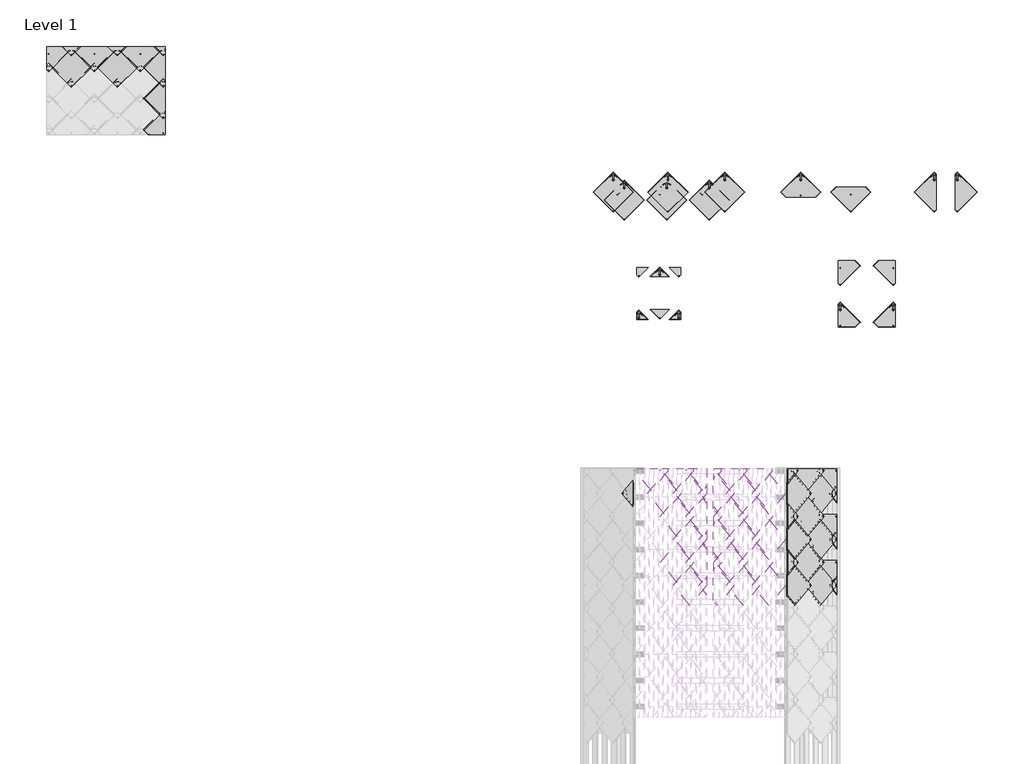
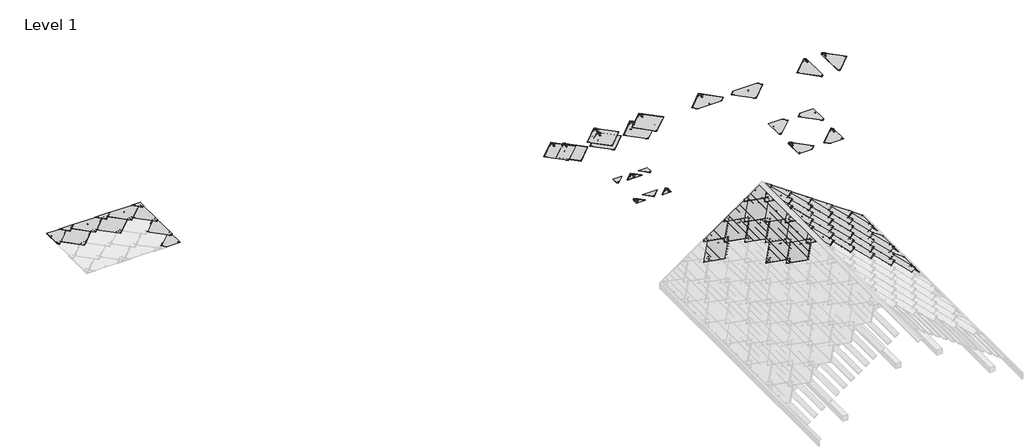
# One storey, part 6 of 6: 82 proxies.
"""IFC4 building model written with IfcOpenShell, lengths in millimetres."""

from ifc_helpers import new_model, si_unit, origin, place, context, project, spatial, transform, mapped, element, save
from components import generic_models_167ef6fe, roofing_panels_sunstyle_tile_non_pv_shingle_non_pv_shingle_39b62107, corner_bottom_big_left_black_bb089a68, corner_bottom_big_right_black_f07d85a3, corner_bottom_small_left_black_13c94d74, corner_bottom_small_right_black_06786041, corner_top_big_left_black_c61de7e8, corner_top_big_right_black_07bce5d7, corner_top_small_left_black_a376e61a, corner_top_small_right_black_ae19c19d, roofing_panels_sunstyle_tile_shingle_bottom_shingle_bottom_b4a41e6e, roofing_panels_sunstyle_tile_shingle_bottom_small_shingle_441e44e2, roofing_panels_sunstyle_tile_shingle_left_shingle_left_black_68cb1fd1, roofing_panels_sunstyle_tile_shingle_right_shingle_right_283bab78, roofing_panels_sunstyle_tile_shingle_top_shingle_top_black_3c2a6519, roofing_panels_sunstyle_tile_shingle_top_small_shingle_top_f7f51557

model = new_model("IFC4")

# Units and contexts
model_context = context("Model", 3, world=origin())
ifc_project = project(units=[si_unit("LENGTHUNIT", "METRE", prefix="MILLI")], contexts=[model_context])

# Site, building, storey
site = spatial("IfcSite", under=ifc_project)
building = spatial("IfcBuilding", under=site)
storey = spatial("IfcBuildingStorey", under=building, Name="Level 1", Elevation=0.0)

# Proxies
placement = place(None, origin())
generic_models_shape = generic_models_167ef6fe(model_context)
element("IfcBuildingElementProxy", 1, Name="Roofing_Solar-Panels_SunStyle_Shingle-Sunstyle : Shingle-Sunstyle - Terracotta", ObjectType="Roofing_Solar-Panels_SunStyle_Shingle-Sunstyle : Shingle-Sunstyle - Terracotta", at=placement, inside=storey, context=model_context, shape_type="MappedRepresentation", body=[
    mapped(generic_models_shape, transform((1183.1620599, 12128.1358596, 0.0), x_axis=(1.0, 0.0, 0.0), y_axis=(0.0, 1.0, 0.0), z_axis=(0.0, 0.0, 1.0))),
])
element("IfcBuildingElementProxy", 2, Name="Roofing_Solar-Panels_SunStyle_Shingle-Sunstyle : Shingle Sunstyle - Black", ObjectType="Roofing_Solar-Panels_SunStyle_Shingle-Sunstyle : Shingle Sunstyle - Black", at=placement, inside=storey, context=model_context, shape_type="MappedRepresentation", body=[
    mapped(generic_models_shape, transform((596.5063841, 3164.5951942, 2403.2019437), x_axis=(0.0, -1.0, 0.0), y_axis=(0.8191520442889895, 0.0, 0.5735764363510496), z_axis=(-0.5735764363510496, 0.0, 0.8191520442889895))),
])
element("IfcBuildingElementProxy", 3, Name="Roofing_Solar-Panels_SunStyle_Shingle-Sunstyle : Shingle Sunstyle - Black", ObjectType="Roofing_Solar-Panels_SunStyle_Shingle-Sunstyle : Shingle Sunstyle - Black", at=placement, inside=storey, context=model_context, shape_type="MappedRepresentation", body=[
    mapped(generic_models_shape, transform((596.5063841, 1763.5951942, 2403.2019437), x_axis=(0.0, -1.0, 0.0), y_axis=(0.8191520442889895, 0.0, 0.5735764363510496), z_axis=(-0.5735764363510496, 0.0, 0.8191520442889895))),
])
element("IfcBuildingElementProxy", 4, Name="Roofing_Solar-Panels_SunStyle_Shingle-Sunstyle : Shingle Sunstyle - Black", ObjectType="Roofing_Solar-Panels_SunStyle_Shingle-Sunstyle : Shingle Sunstyle - Black", at=placement, inside=storey, context=model_context, shape_type="MappedRepresentation", body=[
    mapped(generic_models_shape, transform((205.361283, 1063.0951942, 2129.3191953), x_axis=(0.0, -1.0, 0.0), y_axis=(0.8191520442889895, 0.0, 0.5735764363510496), z_axis=(-0.5735764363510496, 0.0, 0.8191520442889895))),
])
element("IfcBuildingElementProxy", 5, Name="Roofing_Solar-Panels_SunStyle_Shingle-Sunstyle : Shingle Sunstyle - Black", ObjectType="Roofing_Solar-Panels_SunStyle_Shingle-Sunstyle : Shingle Sunstyle - Black", at=placement, inside=storey, context=model_context, shape_type="MappedRepresentation", body=[
    mapped(generic_models_shape, transform((205.361283, 2464.0951942, 2129.3191953), x_axis=(0.0, -1.0, 0.0), y_axis=(0.8191520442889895, 0.0, 0.5735764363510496), z_axis=(-0.5735764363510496, 0.0, 0.8191520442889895))),
])
element("IfcBuildingElementProxy", 6, Name="Roofing_Solar-Panels_SunStyle_Shingle-Sunstyle : Shingle Sunstyle - Black", ObjectType="Roofing_Solar-Panels_SunStyle_Shingle-Sunstyle : Shingle Sunstyle - Black", at=placement, inside=storey, context=model_context, shape_type="MappedRepresentation", body=[
    mapped(generic_models_shape, transform((-185.7838182, 3164.5951942, 1855.4364469), x_axis=(0.0, -1.0, 0.0), y_axis=(0.8191520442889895, 0.0, 0.5735764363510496), z_axis=(-0.5735764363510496, 0.0, 0.8191520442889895))),
])
element("IfcBuildingElementProxy", 7, Name="Roofing_Solar-Panels_SunStyle_Shingle-Sunstyle : Shingle Sunstyle - Black", ObjectType="Roofing_Solar-Panels_SunStyle_Shingle-Sunstyle : Shingle Sunstyle - Black", at=placement, inside=storey, context=model_context, shape_type="MappedRepresentation", body=[
    mapped(generic_models_shape, transform((-968.0740205, 3164.5951942, 1307.6709502), x_axis=(0.0, -1.0, 0.0), y_axis=(0.8191520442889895, 0.0, 0.5735764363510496), z_axis=(-0.5735764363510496, 0.0, 0.8191520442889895))),
])
element("IfcBuildingElementProxy", 8, Name="Roofing_Solar-Panels_SunStyle_Shingle-Sunstyle : Shingle Sunstyle - Black", ObjectType="Roofing_Solar-Panels_SunStyle_Shingle-Sunstyle : Shingle Sunstyle - Black", at=placement, inside=storey, context=model_context, shape_type="MappedRepresentation", body=[
    mapped(generic_models_shape, transform((596.5063841, 362.5951942, 2403.2019437), x_axis=(0.0, -1.0, 0.0), y_axis=(0.8191520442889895, 0.0, 0.5735764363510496), z_axis=(-0.5735764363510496, 0.0, 0.8191520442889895))),
])
element("IfcBuildingElementProxy", 9, Name="Roofing_Solar-Panels_SunStyle_Shingle-Sunstyle : Shingle Sunstyle - Black", ObjectType="Roofing_Solar-Panels_SunStyle_Shingle-Sunstyle : Shingle Sunstyle - Black", at=placement, inside=storey, context=model_context, shape_type="MappedRepresentation", body=[
    mapped(generic_models_shape, transform((1817.0514304, 1063.0951942, 2403.2019437), x_axis=(0.0, 1.0, 0.0), y_axis=(-0.8191520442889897, 0.0, 0.5735764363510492), z_axis=(0.5735764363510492, 0.0, 0.8191520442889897))),
])
element("IfcBuildingElementProxy", 10, Name="Roofing_Solar-Panels_SunStyle_Shingle-Sunstyle : Shingle Sunstyle - Black", ObjectType="Roofing_Solar-Panels_SunStyle_Shingle-Sunstyle : Shingle Sunstyle - Black", at=placement, inside=storey, context=model_context, shape_type="MappedRepresentation", body=[
    mapped(generic_models_shape, transform((1817.0514304, 2464.0951942, 2403.2019437), x_axis=(0.0, 1.0, 0.0), y_axis=(-0.8191520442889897, 0.0, 0.5735764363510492), z_axis=(0.5735764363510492, 0.0, 0.8191520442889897))),
])
element("IfcBuildingElementProxy", 11, Name="Roofing_Solar-Panels_SunStyle_Shingle-Sunstyle : Shingle Sunstyle - Black", ObjectType="Roofing_Solar-Panels_SunStyle_Shingle-Sunstyle : Shingle Sunstyle - Black", at=placement, inside=storey, context=model_context, shape_type="MappedRepresentation", body=[
    mapped(generic_models_shape, transform((2208.1965315, 3164.5951942, 2129.3191953), x_axis=(0.0, 1.0, 0.0), y_axis=(-0.8191520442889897, 0.0, 0.5735764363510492), z_axis=(0.5735764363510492, 0.0, 0.8191520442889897))),
])
element("IfcBuildingElementProxy", 12, Name="Roofing_Solar-Panels_SunStyle_Shingle-Sunstyle : Shingle Sunstyle - Black", ObjectType="Roofing_Solar-Panels_SunStyle_Shingle-Sunstyle : Shingle Sunstyle - Black", at=placement, inside=storey, context=model_context, shape_type="MappedRepresentation", body=[
    mapped(generic_models_shape, transform((2208.1965315, 1763.5951942, 2129.3191953), x_axis=(0.0, 1.0, 0.0), y_axis=(-0.8191520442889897, 0.0, 0.5735764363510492), z_axis=(0.5735764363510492, 0.0, 0.8191520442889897))),
])
element("IfcBuildingElementProxy", 13, Name="Roofing_Solar-Panels_SunStyle_Shingle-Sunstyle : Shingle Sunstyle - Black", ObjectType="Roofing_Solar-Panels_SunStyle_Shingle-Sunstyle : Shingle Sunstyle - Black", at=placement, inside=storey, context=model_context, shape_type="MappedRepresentation", body=[
    mapped(generic_models_shape, transform((2208.1965315, 362.5951942, 2129.3191953), x_axis=(0.0, 1.0, 0.0), y_axis=(-0.8191520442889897, 0.0, 0.5735764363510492), z_axis=(0.5735764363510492, 0.0, 0.8191520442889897))),
])
element("IfcBuildingElementProxy", 14, Name="Roofing_Solar-Panels_SunStyle_Shingle-Sunstyle : Shingle Sunstyle - Black", ObjectType="Roofing_Solar-Panels_SunStyle_Shingle-Sunstyle : Shingle Sunstyle - Black", at=placement, inside=storey, context=model_context, shape_type="MappedRepresentation", body=[
    mapped(generic_models_shape, transform((2599.3416327, 1063.0951942, 1855.4364469), x_axis=(0.0, 1.0, 0.0), y_axis=(-0.8191520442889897, 0.0, 0.5735764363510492), z_axis=(0.5735764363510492, 0.0, 0.8191520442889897))),
])
element("IfcBuildingElementProxy", 15, Name="Roofing_Solar-Panels_SunStyle_Shingle-Sunstyle : Shingle Sunstyle - Black", ObjectType="Roofing_Solar-Panels_SunStyle_Shingle-Sunstyle : Shingle Sunstyle - Black", at=placement, inside=storey, context=model_context, shape_type="MappedRepresentation", body=[
    mapped(generic_models_shape, transform((2599.3416327, 2464.0951942, 1855.4364469), x_axis=(0.0, 1.0, 0.0), y_axis=(-0.8191520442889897, 0.0, 0.5735764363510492), z_axis=(0.5735764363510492, 0.0, 0.8191520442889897))),
])
element("IfcBuildingElementProxy", 16, Name="Roofing_Solar-Panels_SunStyle_Shingle-Sunstyle : Shingle Sunstyle - Black", ObjectType="Roofing_Solar-Panels_SunStyle_Shingle-Sunstyle : Shingle Sunstyle - Black", at=placement, inside=storey, context=model_context, shape_type="MappedRepresentation", body=[
    mapped(generic_models_shape, transform((2990.4867338, 3164.5951942, 1581.5536986), x_axis=(0.0, 1.0, 0.0), y_axis=(-0.8191520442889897, 0.0, 0.5735764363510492), z_axis=(0.5735764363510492, 0.0, 0.8191520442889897))),
])
element("IfcBuildingElementProxy", 17, Name="Roofing_Solar-Panels_SunStyle_Shingle-Sunstyle : Shingle Sunstyle - Black", ObjectType="Roofing_Solar-Panels_SunStyle_Shingle-Sunstyle : Shingle Sunstyle - Black", at=placement, inside=storey, context=model_context, shape_type="MappedRepresentation", body=[
    mapped(generic_models_shape, transform((2990.4867338, 1763.5951942, 1581.5536986), x_axis=(0.0, 1.0, 0.0), y_axis=(-0.8191520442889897, 0.0, 0.5735764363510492), z_axis=(0.5735764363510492, 0.0, 0.8191520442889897))),
])
element("IfcBuildingElementProxy", 18, Name="Roofing_Solar-Panels_SunStyle_Shingle-Sunstyle : Shingle Sunstyle - Black", ObjectType="Roofing_Solar-Panels_SunStyle_Shingle-Sunstyle : Shingle Sunstyle - Black", at=placement, inside=storey, context=model_context, shape_type="MappedRepresentation", body=[
    mapped(generic_models_shape, transform((2990.4867338, 362.5951942, 1581.5536986), x_axis=(0.0, 1.0, 0.0), y_axis=(-0.8191520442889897, 0.0, 0.5735764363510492), z_axis=(0.5735764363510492, 0.0, 0.8191520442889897))),
])
element("IfcBuildingElementProxy", 19, Name="Roofing_Solar-Panels_SunStyle_Shingle-Sunstyle : Shingle Sunstyle - Black", ObjectType="Roofing_Solar-Panels_SunStyle_Shingle-Sunstyle : Shingle Sunstyle - Black", at=placement, inside=storey, context=model_context, shape_type="MappedRepresentation", body=[
    mapped(generic_models_shape, transform((3772.7769361, 362.5951942, 1033.7882019), x_axis=(0.0, 1.0, 0.0), y_axis=(-0.8191520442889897, 0.0, 0.5735764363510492), z_axis=(0.5735764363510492, 0.0, 0.8191520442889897))),
])
element("IfcBuildingElementProxy", 20, Name="Roofing_Solar-Panels_SunStyle_Shingle-Sunstyle : Shingle Sunstyle - Black", ObjectType="Roofing_Solar-Panels_SunStyle_Shingle-Sunstyle : Shingle Sunstyle - Black", at=placement, inside=storey, context=model_context, shape_type="MappedRepresentation", body=[
    mapped(generic_models_shape, transform((4555.0671384, 362.5951942, 486.0227052), x_axis=(0.0, 1.0, 0.0), y_axis=(-0.8191520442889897, 0.0, 0.5735764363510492), z_axis=(0.5735764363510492, 0.0, 0.8191520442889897))),
])
element("IfcBuildingElementProxy", 21, Name="Roofing_Solar-Panels_SunStyle_Shingle-Sunstyle : Shingle Sunstyle - Black", ObjectType="Roofing_Solar-Panels_SunStyle_Shingle-Sunstyle : Shingle Sunstyle - Black", at=placement, inside=storey, context=model_context, shape_type="MappedRepresentation", body=[
    mapped(generic_models_shape, transform((3381.631835, 1063.0951942, 1307.6709502), x_axis=(0.0, 1.0, 0.0), y_axis=(-0.8191520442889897, 0.0, 0.5735764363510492), z_axis=(0.5735764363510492, 0.0, 0.8191520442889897))),
])
element("IfcBuildingElementProxy", 22, Name="Roofing_Solar-Panels_SunStyle_Shingle-Sunstyle : Shingle Sunstyle - Black", ObjectType="Roofing_Solar-Panels_SunStyle_Shingle-Sunstyle : Shingle Sunstyle - Black", at=placement, inside=storey, context=model_context, shape_type="MappedRepresentation", body=[
    mapped(generic_models_shape, transform((4163.9220373, 1063.0951942, 759.9054535), x_axis=(0.0, 1.0, 0.0), y_axis=(-0.8191520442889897, 0.0, 0.5735764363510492), z_axis=(0.5735764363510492, 0.0, 0.8191520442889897))),
])
element("IfcBuildingElementProxy", 23, Name="Roofing_Solar-Panels_SunStyle_Shingle-Sunstyle : Shingle Sunstyle - Black", ObjectType="Roofing_Solar-Panels_SunStyle_Shingle-Sunstyle : Shingle Sunstyle - Black", at=placement, inside=storey, context=model_context, shape_type="MappedRepresentation", body=[
    mapped(generic_models_shape, transform((4555.0671384, 1763.5951942, 486.0227052), x_axis=(0.0, 1.0, 0.0), y_axis=(-0.8191520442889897, 0.0, 0.5735764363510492), z_axis=(0.5735764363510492, 0.0, 0.8191520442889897))),
])
element("IfcBuildingElementProxy", 24, Name="Roofing_Solar-Panels_SunStyle_Shingle-Sunstyle : Shingle Sunstyle - Black", ObjectType="Roofing_Solar-Panels_SunStyle_Shingle-Sunstyle : Shingle Sunstyle - Black", at=placement, inside=storey, context=model_context, shape_type="MappedRepresentation", body=[
    mapped(generic_models_shape, transform((3772.7769361, 1763.5951942, 1033.7882019), x_axis=(0.0, 1.0, 0.0), y_axis=(-0.8191520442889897, 0.0, 0.5735764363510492), z_axis=(0.5735764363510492, 0.0, 0.8191520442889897))),
])
element("IfcBuildingElementProxy", 25, Name="Roofing_Solar-Panels_SunStyle_Shingle-Sunstyle : Shingle Sunstyle - Black", ObjectType="Roofing_Solar-Panels_SunStyle_Shingle-Sunstyle : Shingle Sunstyle - Black", at=placement, inside=storey, context=model_context, shape_type="MappedRepresentation", body=[
    mapped(generic_models_shape, transform((3381.631835, 2464.0951942, 1307.6709502), x_axis=(0.0, 1.0, 0.0), y_axis=(-0.8191520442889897, 0.0, 0.5735764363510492), z_axis=(0.5735764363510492, 0.0, 0.8191520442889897))),
])
element("IfcBuildingElementProxy", 26, Name="Roofing_Solar-Panels_SunStyle_Shingle-Sunstyle : Shingle Sunstyle - Black", ObjectType="Roofing_Solar-Panels_SunStyle_Shingle-Sunstyle : Shingle Sunstyle - Black", at=placement, inside=storey, context=model_context, shape_type="MappedRepresentation", body=[
    mapped(generic_models_shape, transform((4163.9220373, 2464.0951942, 759.9054535), x_axis=(0.0, 1.0, 0.0), y_axis=(-0.8191520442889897, 0.0, 0.5735764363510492), z_axis=(0.5735764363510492, 0.0, 0.8191520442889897))),
])
element("IfcBuildingElementProxy", 27, Name="Roofing_Solar-Panels_SunStyle_Shingle-Sunstyle : Shingle Sunstyle - Black", ObjectType="Roofing_Solar-Panels_SunStyle_Shingle-Sunstyle : Shingle Sunstyle - Black", at=placement, inside=storey, context=model_context, shape_type="MappedRepresentation", body=[
    mapped(generic_models_shape, transform((3772.7769361, 3164.5951942, 1033.7882019), x_axis=(0.0, 1.0, 0.0), y_axis=(-0.8191520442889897, 0.0, 0.5735764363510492), z_axis=(0.5735764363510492, 0.0, 0.8191520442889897))),
])
element("IfcBuildingElementProxy", 28, Name="Roofing_Solar-Panels_SunStyle_Shingle-Sunstyle : Shingle Sunstyle - Black", ObjectType="Roofing_Solar-Panels_SunStyle_Shingle-Sunstyle : Shingle Sunstyle - Black", at=placement, inside=storey, context=model_context, shape_type="MappedRepresentation", body=[
    mapped(generic_models_shape, transform((4555.0671384, 3164.5951942, 486.0227052), x_axis=(0.0, 1.0, 0.0), y_axis=(-0.8191520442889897, 0.0, 0.5735764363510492), z_axis=(0.5735764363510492, 0.0, 0.8191520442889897))),
])
element("IfcBuildingElementProxy", 29, Name="Roofing_Solar-Panels_SunStyle_Shingle-Sunstyle : Shingle Sunstyle - Black", ObjectType="Roofing_Solar-Panels_SunStyle_Shingle-Sunstyle : Shingle Sunstyle - Black", at=placement, inside=storey, context=model_context, shape_type="MappedRepresentation", body=[
    mapped(generic_models_shape, transform((-1416.8379401, 12128.1358596, 0.0), x_axis=(1.0, 0.0, 0.0), y_axis=(0.0, 1.0, 0.0), z_axis=(0.0, 0.0, 1.0))),
])
element("IfcBuildingElementProxy", 30, Name="Roofing_Solar-Panels_SunStyle_Shingle-Sunstyle : Shingle Sunstyle - Black", ObjectType="Roofing_Solar-Panels_SunStyle_Shingle-Sunstyle : Shingle Sunstyle - Black", at=placement, inside=storey, context=model_context, shape_type="MappedRepresentation", body=[
    mapped(generic_models_shape, transform((-78.9861205, 12373.1387531, 0.0), x_axis=(1.0, 0.0, 0.0), y_axis=(0.0, 1.0, 0.0), z_axis=(0.0, 0.0, 1.0))),
])
element("IfcBuildingElementProxy", 31, Name="Roofing_Solar-Panels_SunStyle_Shingle-Sunstyle : Shingle Sunstyle - Silver", ObjectType="Roofing_Solar-Panels_SunStyle_Shingle-Sunstyle : Shingle Sunstyle - Silver", at=placement, inside=storey, context=model_context, shape_type="MappedRepresentation", body=[
    mapped(generic_models_shape, transform((-116.8379401, 12128.1358596, 0.0), x_axis=(1.0, 0.0, 0.0), y_axis=(0.0, 1.0, 0.0), z_axis=(0.0, 0.0, 1.0))),
])
roofing_panels_sunstyle_tile_non_pv_shingle_non_pv_shingle_shape = roofing_panels_sunstyle_tile_non_pv_shingle_non_pv_shingle_39b62107(model_context)
element("IfcBuildingElementProxy", 32, Name="Roofing_Panels_SunStyle_Tile_Shingle-Customisable : Shingle Customisable - Black", ObjectType="Roofing_Panels_SunStyle_Tile_Shingle-Customisable : Shingle Customisable - Black", at=placement, inside=storey, context=model_context, shape_type="MappedRepresentation", body=[
    mapped(roofing_panels_sunstyle_tile_non_pv_shingle_non_pv_shingle_shape, transform((1654.7133821, 12373.1387531, 0.0), x_axis=(1.0, 0.0, 0.0), y_axis=(0.0, 1.0, 0.0), z_axis=(0.0, 0.0, 1.0))),
])
corner_bottom_big_left_black_shape = corner_bottom_big_left_black_bb089a68(model_context)
element("IfcBuildingElementProxy", 33, Name="Roofing_Panels_SunStyle_Tile_Corner-Bottom-Big-Left : Corner Bottom Big Left - Black", ObjectType="Roofing_Panels_SunStyle_Tile_Corner-Bottom-Big-Left : Corner Bottom Big Left - Black", at=placement, inside=storey, context=model_context, shape_type="MappedRepresentation", body=[
    mapped(corner_bottom_big_left_black_shape, transform((5177.5814, 8399.1088323, 0.0), x_axis=(1.0, 0.0, 0.0), y_axis=(0.0, 1.0, 0.0), z_axis=(0.0, 0.0, 1.0))),
])
corner_bottom_big_right_black_shape = corner_bottom_big_right_black_f07d85a3(model_context)
element("IfcBuildingElementProxy", 34, Name="Roofing_Panels_SunStyle_Tile_Corner-Bottom-Big-Right : Corner Bottom Big Right - Black", ObjectType="Roofing_Panels_SunStyle_Tile_Corner-Bottom-Big-Right : Corner Bottom Big Right - Black", at=placement, inside=storey, context=model_context, shape_type="MappedRepresentation", body=[
    mapped(corner_bottom_big_right_black_shape, transform((4946.2122396, 3865.0951942, 212.1399568), x_axis=(0.0, 1.0, 0.0), y_axis=(-0.8191520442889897, 0.0, 0.5735764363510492), z_axis=(0.5735764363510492, 0.0, 0.8191520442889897))),
])
element("IfcBuildingElementProxy", 35, Name="Roofing_Panels_SunStyle_Tile_Corner-Bottom-Big-Right : Corner Bottom Big Right - Black", ObjectType="Roofing_Panels_SunStyle_Tile_Corner-Bottom-Big-Right : Corner Bottom Big Right - Black", at=placement, inside=storey, context=model_context, shape_type="MappedRepresentation", body=[
    mapped(corner_bottom_big_right_black_shape, transform((4946.2122396, 2464.0951942, 212.1399568), x_axis=(0.0, 1.0, 0.0), y_axis=(-0.8191520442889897, 0.0, 0.5735764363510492), z_axis=(0.5735764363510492, 0.0, 0.8191520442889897))),
])
element("IfcBuildingElementProxy", 36, Name="Roofing_Panels_SunStyle_Tile_Corner-Bottom-Big-Right : Corner Bottom Big Right - Black", ObjectType="Roofing_Panels_SunStyle_Tile_Corner-Bottom-Big-Right : Corner Bottom Big Right - Black", at=placement, inside=storey, context=model_context, shape_type="MappedRepresentation", body=[
    mapped(corner_bottom_big_right_black_shape, transform((4946.2122396, 1063.0951942, 212.1399568), x_axis=(0.0, 1.0, 0.0), y_axis=(-0.8191520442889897, 0.0, 0.5735764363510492), z_axis=(0.5735764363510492, 0.0, 0.8191520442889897))),
])
element("IfcBuildingElementProxy", 37, Name="Roofing_Panels_SunStyle_Tile_Corner-Bottom-Big-Right : Corner Bottom Big Right - Black", ObjectType="Roofing_Panels_SunStyle_Tile_Corner-Bottom-Big-Right : Corner Bottom Big Right - Black", at=placement, inside=storey, context=model_context, shape_type="MappedRepresentation", body=[
    mapped(corner_bottom_big_right_black_shape, transform((-15485.0193526, 14281.3076789, 0.0), x_axis=(1.0, 0.0, 0.0), y_axis=(0.0, 1.0, 0.0), z_axis=(0.0, 0.0, 1.0))),
])
element("IfcBuildingElementProxy", 38, Name="Roofing_Panels_SunStyle_Tile_Corner-Bottom-Big-Right : Corner Bottom Big Right - Black", ObjectType="Roofing_Panels_SunStyle_Tile_Corner-Bottom-Big-Right : Corner Bottom Big Right - Black", at=placement, inside=storey, context=model_context, shape_type="MappedRepresentation", body=[
    mapped(corner_bottom_big_right_black_shape, transform((6796.2093458, 8399.1088323, 0.0), x_axis=(1.0, 0.0, 0.0), y_axis=(0.0, 1.0, 0.0), z_axis=(0.0, 0.0, 1.0))),
])
corner_bottom_small_left_black_shape = corner_bottom_small_left_black_13c94d74(model_context)
element("IfcBuildingElementProxy", 39, Name="Roofing_Panels_SunStyle_Tile_Corner-Bottom-Small-Left : Corner Bottom Small Left - Black", ObjectType="Roofing_Panels_SunStyle_Tile_Corner-Bottom-Small-Left : Corner Bottom Small Left - Black", at=placement, inside=storey, context=model_context, shape_type="MappedRepresentation", body=[
    mapped(corner_bottom_small_left_black_shape, transform((-971.0115331, 8149.4851431, 0.0), x_axis=(1.0, 0.0, 0.0), y_axis=(0.0, 1.0, 0.0), z_axis=(0.0, 0.0, 1.0))),
])
corner_bottom_small_right_black_shape = corner_bottom_small_right_black_06786041(model_context)
element("IfcBuildingElementProxy", 40, Name="Roofing_Panels_SunStyle_Tile_Corner-Bottom-Small-Right : Corner Bottom Small Right - Black", ObjectType="Roofing_Panels_SunStyle_Tile_Corner-Bottom-Small-Right : Corner Bottom Small Right - Black", at=placement, inside=storey, context=model_context, shape_type="MappedRepresentation", body=[
    mapped(corner_bottom_small_right_black_shape, transform((249.6658683, 8149.4851431, 0.0), x_axis=(1.0, 0.0, 0.0), y_axis=(0.0, 1.0, 0.0), z_axis=(0.0, 0.0, 1.0))),
])
corner_top_big_left_black_shape = corner_top_big_left_black_c61de7e8(model_context)
element("IfcBuildingElementProxy", 41, Name="Roofing_Panels_SunStyle_Tile_Corner-Top-Big-Left : Corner Top Big Left - Black", ObjectType="Roofing_Panels_SunStyle_Tile_Corner-Top-Big-Left : Corner Top Big Left - Black", at=placement, inside=storey, context=model_context, shape_type="MappedRepresentation", body=[
    mapped(corner_top_big_left_black_shape, transform((987.6514853, 3865.0951942, 2677.084692), x_axis=(0.0, -1.0, 0.0), y_axis=(0.8191520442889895, 0.0, 0.5735764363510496), z_axis=(-0.5735764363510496, 0.0, 0.8191520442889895))),
])
element("IfcBuildingElementProxy", 42, Name="Roofing_Panels_SunStyle_Tile_Corner-Top-Big-Left : Corner Top Big Left - Black", ObjectType="Roofing_Panels_SunStyle_Tile_Corner-Top-Big-Left : Corner Top Big Left - Black", at=placement, inside=storey, context=model_context, shape_type="MappedRepresentation", body=[
    mapped(corner_top_big_left_black_shape, transform((-18987.0193526, 16668.8076789, 0.0), x_axis=(1.0, 0.0, 0.0), y_axis=(0.0, 1.0, 0.0), z_axis=(0.0, 0.0, 1.0))),
])
element("IfcBuildingElementProxy", 43, Name="Roofing_Panels_SunStyle_Tile_Corner-Top-Big-Left : Corner Top Big Left - Black", ObjectType="Roofing_Panels_SunStyle_Tile_Corner-Top-Big-Left : Corner Top Big Left - Black", at=placement, inside=storey, context=model_context, shape_type="MappedRepresentation", body=[
    mapped(corner_top_big_left_black_shape, transform((5177.5814, 10128.3354445, 0.0), x_axis=(1.0, 0.0, 0.0), y_axis=(0.0, 1.0, 0.0), z_axis=(0.0, 0.0, 1.0))),
])
corner_top_big_right_black_shape = corner_top_big_right_black_07bce5d7(model_context)
element("IfcBuildingElementProxy", 44, Name="Roofing_Panels_SunStyle_Tile_Corner-Top-Big-Right : Corner Top Big Right - Black", ObjectType="Roofing_Panels_SunStyle_Tile_Corner-Top-Big-Right : Corner Top Big Right - Black", at=placement, inside=storey, context=model_context, shape_type="MappedRepresentation", body=[
    mapped(corner_top_big_right_black_shape, transform((6796.2093458, 10128.3354445, 0.0), x_axis=(1.0, 0.0, 0.0), y_axis=(0.0, 1.0, 0.0), z_axis=(0.0, 0.0, 1.0))),
])
corner_top_small_left_black_shape = corner_top_small_left_black_a376e61a(model_context)
element("IfcBuildingElementProxy", 45, Name="Roofing_Panels_SunStyle_Tile_Corner-Top-Small-Left : Corner Top Small Left - Black", ObjectType="Roofing_Panels_SunStyle_Tile_Corner-Top-Small-Left : Corner Top Small Left - Black", at=placement, inside=storey, context=model_context, shape_type="MappedRepresentation", body=[
    mapped(corner_top_small_left_black_shape, transform((-971.0115331, 10396.2161275, 0.0), x_axis=(1.0, 0.0, 0.0), y_axis=(0.0, 1.0, 0.0), z_axis=(0.0, 0.0, 1.0))),
])
corner_top_small_right_black_shape = corner_top_small_right_black_ae19c19d(model_context)
element("IfcBuildingElementProxy", 46, Name="Roofing_Panels_SunStyle_Tile_Corner-Top-Small-Right : Corner Top Small Right - Black", ObjectType="Roofing_Panels_SunStyle_Tile_Corner-Top-Small-Right : Corner Top Small Right - Black", at=placement, inside=storey, context=model_context, shape_type="MappedRepresentation", body=[
    mapped(corner_top_small_right_black_shape, transform((1034.7612281, 3865.0951942, 2950.9674404), x_axis=(0.0, 1.0, 0.0), y_axis=(-0.8191520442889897, 0.0, 0.5735764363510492), z_axis=(0.5735764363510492, 0.0, 0.8191520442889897))),
])
element("IfcBuildingElementProxy", 47, Name="Roofing_Panels_SunStyle_Tile_Corner-Top-Small-Right : Corner Top Small Right - Black", ObjectType="Roofing_Panels_SunStyle_Tile_Corner-Top-Small-Right : Corner Top Small Right - Black", at=placement, inside=storey, context=model_context, shape_type="MappedRepresentation", body=[
    mapped(corner_top_small_right_black_shape, transform((-15485.0193526, 17146.3076789, 0.0), x_axis=(1.0, 0.0, 0.0), y_axis=(0.0, 1.0, 0.0), z_axis=(0.0, 0.0, 1.0))),
])
element("IfcBuildingElementProxy", 48, Name="Roofing_Panels_SunStyle_Tile_Corner-Top-Small-Right : Corner Top Small Right - Black", ObjectType="Roofing_Panels_SunStyle_Tile_Corner-Top-Small-Right : Corner Top Small Right - Black", at=placement, inside=storey, context=model_context, shape_type="MappedRepresentation", body=[
    mapped(corner_top_small_right_black_shape, transform((249.6658683, 10396.2161275, 0.0), x_axis=(1.0, 0.0, 0.0), y_axis=(0.0, 1.0, 0.0), z_axis=(0.0, 0.0, 1.0))),
])
element("IfcBuildingElementProxy", 49, Name="Roofing_Panels_SunStyle_Tile_Non-PV-Shingle : Non PV Shingle - Black", ObjectType="Roofing_Panels_SunStyle_Tile_Non-PV-Shingle : Non PV Shingle - Black", at=placement, inside=storey, context=model_context, shape_type="MappedRepresentation", body=[
    mapped(roofing_panels_sunstyle_tile_non_pv_shingle_non_pv_shingle_shape, transform((-18286.5193526, 16191.3076789, 0.0), x_axis=(1.0, 0.0, 0.0), y_axis=(0.0, 1.0, 0.0), z_axis=(0.0, 0.0, 1.0))),
])
element("IfcBuildingElementProxy", 50, Name="Roofing_Panels_SunStyle_Tile_Non-PV-Shingle : Non PV Shingle - Black", ObjectType="Roofing_Panels_SunStyle_Tile_Non-PV-Shingle : Non PV Shingle - Black", at=placement, inside=storey, context=model_context, shape_type="MappedRepresentation", body=[
    mapped(roofing_panels_sunstyle_tile_non_pv_shingle_non_pv_shingle_shape, transform((-16885.5193526, 16191.3076789, 0.0), x_axis=(1.0, 0.0, 0.0), y_axis=(0.0, 1.0, 0.0), z_axis=(0.0, 0.0, 1.0))),
])
element("IfcBuildingElementProxy", 51, Name="Roofing_Panels_SunStyle_Tile_Non-PV-Shingle : Non PV Shingle - Black", ObjectType="Roofing_Panels_SunStyle_Tile_Non-PV-Shingle : Non PV Shingle - Black", at=placement, inside=storey, context=model_context, shape_type="MappedRepresentation", body=[
    mapped(roofing_panels_sunstyle_tile_non_pv_shingle_non_pv_shingle_shape, transform((-1749.4382965, 12373.1387531, 0.0), x_axis=(1.0, 0.0, 0.0), y_axis=(0.0, 1.0, 0.0), z_axis=(0.0, 0.0, 1.0))),
])
roofing_panels_sunstyle_tile_shingle_bottom_shingle_bottom_shape = roofing_panels_sunstyle_tile_shingle_bottom_shingle_bottom_b4a41e6e(model_context)
element("IfcBuildingElementProxy", 52, Name="Roofing_Panels_SunStyle_Tile_Shingle-Bottom : Shingle Bottom - Black", ObjectType="Roofing_Panels_SunStyle_Tile_Shingle-Bottom : Shingle Bottom - Black", at=placement, inside=storey, context=model_context, shape_type="MappedRepresentation", body=[
    mapped(roofing_panels_sunstyle_tile_shingle_bottom_shingle_bottom_shape, transform((3972.6793706, 12373.1387531, 0.0), x_axis=(1.0, 0.0, 0.0), y_axis=(0.0, 1.0, 0.0), z_axis=(0.0, 0.0, 1.0))),
])
roofing_panels_sunstyle_tile_shingle_bottom_small_shingle_shape = roofing_panels_sunstyle_tile_shingle_bottom_small_shingle_441e44e2(model_context)
element("IfcBuildingElementProxy", 53, Name="Roofing_Panels_SunStyle_Tile_Shingle-Bottom-Small : Shingle Bottom Small - Black", ObjectType="Roofing_Panels_SunStyle_Tile_Shingle-Bottom-Small : Shingle Bottom Small - Black", at=placement, inside=storey, context=model_context, shape_type="MappedRepresentation", body=[
    mapped(roofing_panels_sunstyle_tile_shingle_bottom_small_shingle_shape, transform((5337.3573407, 362.5951942, -61.7427916), x_axis=(0.0, 1.0, 0.0), y_axis=(-0.8191520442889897, 0.0, 0.5735764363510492), z_axis=(0.5735764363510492, 0.0, 0.8191520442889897))),
])
element("IfcBuildingElementProxy", 54, Name="Roofing_Panels_SunStyle_Tile_Shingle-Bottom-Small : Shingle Bottom Small - Black", ObjectType="Roofing_Panels_SunStyle_Tile_Shingle-Bottom-Small : Shingle Bottom Small - Black", at=placement, inside=storey, context=model_context, shape_type="MappedRepresentation", body=[
    mapped(roofing_panels_sunstyle_tile_shingle_bottom_small_shingle_shape, transform((5337.3573407, 1763.5951942, -61.7427916), x_axis=(0.0, 1.0, 0.0), y_axis=(-0.8191520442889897, 0.0, 0.5735764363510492), z_axis=(0.5735764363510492, 0.0, 0.8191520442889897))),
])
element("IfcBuildingElementProxy", 55, Name="Roofing_Panels_SunStyle_Tile_Shingle-Bottom-Small : Shingle Bottom Small - Black", ObjectType="Roofing_Panels_SunStyle_Tile_Shingle-Bottom-Small : Shingle Bottom Small - Black", at=placement, inside=storey, context=model_context, shape_type="MappedRepresentation", body=[
    mapped(roofing_panels_sunstyle_tile_shingle_bottom_small_shingle_shape, transform((5337.3573407, 3164.5951942, -61.7427916), x_axis=(0.0, 1.0, 0.0), y_axis=(-0.8191520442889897, 0.0, 0.5735764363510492), z_axis=(0.5735764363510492, 0.0, 0.8191520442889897))),
])
element("IfcBuildingElementProxy", 56, Name="Roofing_Panels_SunStyle_Tile_Shingle-Bottom-Small : Shingle Bottom Small - Black", ObjectType="Roofing_Panels_SunStyle_Tile_Shingle-Bottom-Small : Shingle Bottom Small - Black", at=placement, inside=storey, context=model_context, shape_type="MappedRepresentation", body=[
    mapped(roofing_panels_sunstyle_tile_shingle_bottom_small_shingle_shape, transform((-334.311905, 9468.9432071, 0.0), x_axis=(1.0, 0.0, 0.0), y_axis=(0.0, 1.0, 0.0), z_axis=(0.0, 0.0, 1.0))),
])
roofing_panels_sunstyle_tile_shingle_left_shingle_left_black_shape = roofing_panels_sunstyle_tile_shingle_left_shingle_left_black_68cb1fd1(model_context)
element("IfcBuildingElementProxy", 57, Name="Roofing_Panels_SunStyle_Tile_Shingle-Left : Shingle Left - Black", ObjectType="Roofing_Panels_SunStyle_Tile_Shingle-Left : Shingle Left - Black", at=placement, inside=storey, context=model_context, shape_type="MappedRepresentation", body=[
    mapped(roofing_panels_sunstyle_tile_shingle_left_shingle_left_black_shape, transform((205.361283, 3865.0951942, 2129.3191953), x_axis=(0.0, -1.0, 0.0), y_axis=(0.8191520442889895, 0.0, 0.5735764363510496), z_axis=(-0.5735764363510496, 0.0, 0.8191520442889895))),
])
element("IfcBuildingElementProxy", 58, Name="Roofing_Panels_SunStyle_Tile_Shingle-Left : Shingle Left - Black", ObjectType="Roofing_Panels_SunStyle_Tile_Shingle-Left : Shingle Left - Black", at=placement, inside=storey, context=model_context, shape_type="MappedRepresentation", body=[
    mapped(roofing_panels_sunstyle_tile_shingle_left_shingle_left_black_shape, transform((-576.9289193, 3865.0951942, 1581.5536986), x_axis=(0.0, -1.0, 0.0), y_axis=(0.8191520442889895, 0.0, 0.5735764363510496), z_axis=(-0.5735764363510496, 0.0, 0.8191520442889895))),
])
element("IfcBuildingElementProxy", 59, Name="Roofing_Panels_SunStyle_Tile_Shingle-Left : Shingle Left - Black", ObjectType="Roofing_Panels_SunStyle_Tile_Shingle-Left : Shingle Left - Black", at=placement, inside=storey, context=model_context, shape_type="MappedRepresentation", body=[
    mapped(roofing_panels_sunstyle_tile_shingle_left_shingle_left_black_shape, transform((8750.9832887, 12373.1387531, 0.0), x_axis=(1.0, 0.0, 0.0), y_axis=(0.0, 1.0, 0.0), z_axis=(0.0, 0.0, 1.0))),
])
roofing_panels_sunstyle_tile_shingle_right_shingle_right_shape = roofing_panels_sunstyle_tile_shingle_right_shingle_right_283bab78(model_context)
element("IfcBuildingElementProxy", 60, Name="Roofing_Panels_SunStyle_Tile_Shingle-Right : Shingle Right - Black", ObjectType="Roofing_Panels_SunStyle_Tile_Shingle-Right : Shingle Right - Black", at=placement, inside=storey, context=model_context, shape_type="MappedRepresentation", body=[
    mapped(roofing_panels_sunstyle_tile_shingle_right_shingle_right_shape, transform((1817.0514304, 3865.0951942, 2403.2019437), x_axis=(0.0, 1.0, 0.0), y_axis=(-0.8191520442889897, 0.0, 0.5735764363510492), z_axis=(0.5735764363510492, 0.0, 0.8191520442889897))),
])
element("IfcBuildingElementProxy", 61, Name="Roofing_Panels_SunStyle_Tile_Shingle-Right : Shingle Right - Black", ObjectType="Roofing_Panels_SunStyle_Tile_Shingle-Right : Shingle Right - Black", at=placement, inside=storey, context=model_context, shape_type="MappedRepresentation", body=[
    mapped(roofing_panels_sunstyle_tile_shingle_right_shingle_right_shape, transform((2599.3416327, 3865.0951942, 1855.4364469), x_axis=(0.0, 1.0, 0.0), y_axis=(-0.8191520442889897, 0.0, 0.5735764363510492), z_axis=(0.5735764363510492, 0.0, 0.8191520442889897))),
])
element("IfcBuildingElementProxy", 62, Name="Roofing_Panels_SunStyle_Tile_Shingle-Right : Shingle Right - Black", ObjectType="Roofing_Panels_SunStyle_Tile_Shingle-Right : Shingle Right - Black", at=placement, inside=storey, context=model_context, shape_type="MappedRepresentation", body=[
    mapped(roofing_panels_sunstyle_tile_shingle_right_shingle_right_shape, transform((3381.631835, 3865.0951942, 1307.6709502), x_axis=(0.0, 1.0, 0.0), y_axis=(-0.8191520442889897, 0.0, 0.5735764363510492), z_axis=(0.5735764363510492, 0.0, 0.8191520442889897))),
])
element("IfcBuildingElementProxy", 63, Name="Roofing_Panels_SunStyle_Tile_Shingle-Right : Shingle Right - Black", ObjectType="Roofing_Panels_SunStyle_Tile_Shingle-Right : Shingle Right - Black", at=placement, inside=storey, context=model_context, shape_type="MappedRepresentation", body=[
    mapped(roofing_panels_sunstyle_tile_shingle_right_shingle_right_shape, transform((4163.9220373, 3865.0951942, 759.9054535), x_axis=(0.0, 1.0, 0.0), y_axis=(-0.8191520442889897, 0.0, 0.5735764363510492), z_axis=(0.5735764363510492, 0.0, 0.8191520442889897))),
])
element("IfcBuildingElementProxy", 64, Name="Roofing_Panels_SunStyle_Tile_Shingle-Right : Shingle Right - Black", ObjectType="Roofing_Panels_SunStyle_Tile_Shingle-Right : Shingle Right - Black", at=placement, inside=storey, context=model_context, shape_type="MappedRepresentation", body=[
    mapped(roofing_panels_sunstyle_tile_shingle_right_shingle_right_shape, transform((-15485.0193526, 15236.3076789, 0.0), x_axis=(1.0, 0.0, 0.0), y_axis=(0.0, 1.0, 0.0), z_axis=(0.0, 0.0, 1.0))),
])
element("IfcBuildingElementProxy", 65, Name="Roofing_Panels_SunStyle_Tile_Shingle-Right : Shingle Right - Black", ObjectType="Roofing_Panels_SunStyle_Tile_Shingle-Right : Shingle Right - Black", at=placement, inside=storey, context=model_context, shape_type="MappedRepresentation", body=[
    mapped(roofing_panels_sunstyle_tile_shingle_right_shingle_right_shape, transform((-15485.0193526, 16191.3076789, 0.0), x_axis=(1.0, 0.0, 0.0), y_axis=(0.0, 1.0, 0.0), z_axis=(0.0, 0.0, 1.0))),
])
element("IfcBuildingElementProxy", 66, Name="Roofing_Panels_SunStyle_Tile_Shingle-Right : Shingle Right - Black", ObjectType="Roofing_Panels_SunStyle_Tile_Shingle-Right : Shingle Right - Black", at=placement, inside=storey, context=model_context, shape_type="MappedRepresentation", body=[
    mapped(roofing_panels_sunstyle_tile_shingle_right_shingle_right_shape, transform((8048.5042622, 12373.1387531, 0.0), x_axis=(1.0, 0.0, 0.0), y_axis=(0.0, 1.0, 0.0), z_axis=(0.0, 0.0, 1.0))),
])
roofing_panels_sunstyle_tile_shingle_top_shingle_top_black_shape = roofing_panels_sunstyle_tile_shingle_top_shingle_top_black_3c2a6519(model_context)
element("IfcBuildingElementProxy", 67, Name="Roofing_Panels_SunStyle_Tile_Shingle-Top : Shingle Top - Black", ObjectType="Roofing_Panels_SunStyle_Tile_Shingle-Top : Shingle Top - Black", at=placement, inside=storey, context=model_context, shape_type="MappedRepresentation", body=[
    mapped(roofing_panels_sunstyle_tile_shingle_top_shingle_top_black_shape, transform((987.6514853, 2464.0951942, 2677.084692), x_axis=(0.0, -1.0, 0.0), y_axis=(0.8191520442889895, 0.0, 0.5735764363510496), z_axis=(-0.5735764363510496, 0.0, 0.8191520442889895))),
])
element("IfcBuildingElementProxy", 68, Name="Roofing_Panels_SunStyle_Tile_Shingle-Top : Shingle Top - Black", ObjectType="Roofing_Panels_SunStyle_Tile_Shingle-Top : Shingle Top - Black", at=placement, inside=storey, context=model_context, shape_type="MappedRepresentation", body=[
    mapped(roofing_panels_sunstyle_tile_shingle_top_shingle_top_black_shape, transform((987.6514853, 1063.0951942, 2677.084692), x_axis=(0.0, -1.0, 0.0), y_axis=(0.8191520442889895, 0.0, 0.5735764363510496), z_axis=(-0.5735764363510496, 0.0, 0.8191520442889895))),
])
element("IfcBuildingElementProxy", 69, Name="Roofing_Panels_SunStyle_Tile_Shingle-Top : Shingle Top - Black", ObjectType="Roofing_Panels_SunStyle_Tile_Shingle-Top : Shingle Top - Black", at=placement, inside=storey, context=model_context, shape_type="MappedRepresentation", body=[
    mapped(roofing_panels_sunstyle_tile_shingle_top_shingle_top_black_shape, transform((1425.9063292, 362.5951942, 2677.084692), x_axis=(0.0, 1.0, 0.0), y_axis=(-0.8191520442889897, 0.0, 0.5735764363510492), z_axis=(0.5735764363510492, 0.0, 0.8191520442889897))),
])
element("IfcBuildingElementProxy", 70, Name="Roofing_Panels_SunStyle_Tile_Shingle-Top : Shingle Top - Black", ObjectType="Roofing_Panels_SunStyle_Tile_Shingle-Top : Shingle Top - Black", at=placement, inside=storey, context=model_context, shape_type="MappedRepresentation", body=[
    mapped(roofing_panels_sunstyle_tile_shingle_top_shingle_top_black_shape, transform((1425.9063292, 1763.5951942, 2677.084692), x_axis=(0.0, 1.0, 0.0), y_axis=(-0.8191520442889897, 0.0, 0.5735764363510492), z_axis=(0.5735764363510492, 0.0, 0.8191520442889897))),
])
element("IfcBuildingElementProxy", 71, Name="Roofing_Panels_SunStyle_Tile_Shingle-Top : Shingle Top - Black", ObjectType="Roofing_Panels_SunStyle_Tile_Shingle-Top : Shingle Top - Black", at=placement, inside=storey, context=model_context, shape_type="MappedRepresentation", body=[
    mapped(roofing_panels_sunstyle_tile_shingle_top_shingle_top_black_shape, transform((1425.9063292, 3164.5951942, 2677.084692), x_axis=(0.0, 1.0, 0.0), y_axis=(-0.8191520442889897, 0.0, 0.5735764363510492), z_axis=(0.5735764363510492, 0.0, 0.8191520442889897))),
])
element("IfcBuildingElementProxy", 72, Name="Roofing_Panels_SunStyle_Tile_Shingle-Top : Shingle Top - Black", ObjectType="Roofing_Panels_SunStyle_Tile_Shingle-Top : Shingle Top - Black", at=placement, inside=storey, context=model_context, shape_type="MappedRepresentation", body=[
    mapped(roofing_panels_sunstyle_tile_shingle_top_shingle_top_black_shape, transform((-17586.0193526, 16668.8076789, 0.0), x_axis=(1.0, 0.0, 0.0), y_axis=(0.0, 1.0, 0.0), z_axis=(0.0, 0.0, 1.0))),
])
element("IfcBuildingElementProxy", 73, Name="Roofing_Panels_SunStyle_Tile_Shingle-Top : Shingle Top - Black", ObjectType="Roofing_Panels_SunStyle_Tile_Shingle-Top : Shingle Top - Black", at=placement, inside=storey, context=model_context, shape_type="MappedRepresentation", body=[
    mapped(roofing_panels_sunstyle_tile_shingle_top_shingle_top_black_shape, transform((-16185.0193526, 16668.8076789, 0.0), x_axis=(1.0, 0.0, 0.0), y_axis=(0.0, 1.0, 0.0), z_axis=(0.0, 0.0, 1.0))),
])
element("IfcBuildingElementProxy", 74, Name="Roofing_Panels_SunStyle_Tile_Shingle-Top : Shingle Top - Black", ObjectType="Roofing_Panels_SunStyle_Tile_Shingle-Top : Shingle Top - Black", at=placement, inside=storey, context=model_context, shape_type="MappedRepresentation", body=[
    mapped(roofing_panels_sunstyle_tile_shingle_top_shingle_top_black_shape, transform((5499.6084742, 12373.1387531, 0.0), x_axis=(1.0, 0.0, 0.0), y_axis=(0.0, 1.0, 0.0), z_axis=(0.0, 0.0, 1.0))),
])
roofing_panels_sunstyle_tile_shingle_top_small_shingle_top_shape = roofing_panels_sunstyle_tile_shingle_top_small_shingle_top_f7f51557(model_context)
element("IfcBuildingElementProxy", 75, Name="Roofing_Panels_SunStyle_Tile_Shingle-Top-Small : Shingle Top Small - Black", ObjectType="Roofing_Panels_SunStyle_Tile_Shingle-Top-Small : Shingle Top Small - Black", at=placement, inside=storey, context=model_context, shape_type="MappedRepresentation", body=[
    mapped(roofing_panels_sunstyle_tile_shingle_top_small_shingle_top_shape, transform((1378.7965864, 362.5951942, 2950.9674404), x_axis=(0.0, -1.0, 0.0), y_axis=(0.8191520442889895, 0.0, 0.5735764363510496), z_axis=(-0.5735764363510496, 0.0, 0.8191520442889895))),
])
element("IfcBuildingElementProxy", 76, Name="Roofing_Panels_SunStyle_Tile_Shingle-Top-Small : Shingle Top Small - Black", ObjectType="Roofing_Panels_SunStyle_Tile_Shingle-Top-Small : Shingle Top Small - Black", at=placement, inside=storey, context=model_context, shape_type="MappedRepresentation", body=[
    mapped(roofing_panels_sunstyle_tile_shingle_top_small_shingle_top_shape, transform((1378.7965864, 1763.5951942, 2950.9674404), x_axis=(0.0, -1.0, 0.0), y_axis=(0.8191520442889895, 0.0, 0.5735764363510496), z_axis=(-0.5735764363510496, 0.0, 0.8191520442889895))),
])
element("IfcBuildingElementProxy", 77, Name="Roofing_Panels_SunStyle_Tile_Shingle-Top-Small : Shingle Top Small - Black", ObjectType="Roofing_Panels_SunStyle_Tile_Shingle-Top-Small : Shingle Top Small - Black", at=placement, inside=storey, context=model_context, shape_type="MappedRepresentation", body=[
    mapped(roofing_panels_sunstyle_tile_shingle_top_small_shingle_top_shape, transform((1378.7965864, 3164.5951942, 2950.9674404), x_axis=(0.0, -1.0, 0.0), y_axis=(0.8191520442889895, 0.0, 0.5735764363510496), z_axis=(-0.5735764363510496, 0.0, 0.8191520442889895))),
])
element("IfcBuildingElementProxy", 78, Name="Roofing_Panels_SunStyle_Tile_Shingle-Top-Small : Shingle Top Small - Black", ObjectType="Roofing_Panels_SunStyle_Tile_Shingle-Top-Small : Shingle Top Small - Black", at=placement, inside=storey, context=model_context, shape_type="MappedRepresentation", body=[
    mapped(roofing_panels_sunstyle_tile_shingle_top_small_shingle_top_shape, transform((1034.7612281, 1063.0951942, 2950.9674404), x_axis=(0.0, 1.0, 0.0), y_axis=(-0.8191520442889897, 0.0, 0.5735764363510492), z_axis=(0.5735764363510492, 0.0, 0.8191520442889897))),
])
element("IfcBuildingElementProxy", 79, Name="Roofing_Panels_SunStyle_Tile_Shingle-Top-Small : Shingle Top Small - Black", ObjectType="Roofing_Panels_SunStyle_Tile_Shingle-Top-Small : Shingle Top Small - Black", at=placement, inside=storey, context=model_context, shape_type="MappedRepresentation", body=[
    mapped(roofing_panels_sunstyle_tile_shingle_top_small_shingle_top_shape, transform((1034.7612281, 2464.0951942, 2950.9674404), x_axis=(0.0, 1.0, 0.0), y_axis=(-0.8191520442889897, 0.0, 0.5735764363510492), z_axis=(0.5735764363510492, 0.0, 0.8191520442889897))),
])
element("IfcBuildingElementProxy", 80, Name="Roofing_Panels_SunStyle_Tile_Shingle-Top-Small : Shingle Top Small - Black", ObjectType="Roofing_Panels_SunStyle_Tile_Shingle-Top-Small : Shingle Top Small - Black", at=placement, inside=storey, context=model_context, shape_type="MappedRepresentation", body=[
    mapped(roofing_panels_sunstyle_tile_shingle_top_small_shingle_top_shape, transform((-18286.5193526, 17146.3076789, 0.0), x_axis=(1.0, 0.0, 0.0), y_axis=(0.0, 1.0, 0.0), z_axis=(0.0, 0.0, 1.0))),
])
element("IfcBuildingElementProxy", 81, Name="Roofing_Panels_SunStyle_Tile_Shingle-Top-Small : Shingle Top Small - Black", ObjectType="Roofing_Panels_SunStyle_Tile_Shingle-Top-Small : Shingle Top Small - Black", at=placement, inside=storey, context=model_context, shape_type="MappedRepresentation", body=[
    mapped(roofing_panels_sunstyle_tile_shingle_top_small_shingle_top_shape, transform((-16885.5193526, 17146.3076789, 0.0), x_axis=(1.0, 0.0, 0.0), y_axis=(0.0, 1.0, 0.0), z_axis=(0.0, 0.0, 1.0))),
])
element("IfcBuildingElementProxy", 82, Name="Roofing_Panels_SunStyle_Tile_Shingle-Top-Small : Shingle Top Small - Black", ObjectType="Roofing_Panels_SunStyle_Tile_Shingle-Top-Small : Shingle Top Small - Black", at=placement, inside=storey, context=model_context, shape_type="MappedRepresentation", body=[
    mapped(roofing_panels_sunstyle_tile_shingle_top_small_shingle_top_shape, transform((-334.311905, 9108.9432071, 0.0), x_axis=(1.0, 0.0, 0.0), y_axis=(0.0, 1.0, 0.0), z_axis=(0.0, 0.0, 1.0))),
])

save(model, "model.ifc")
